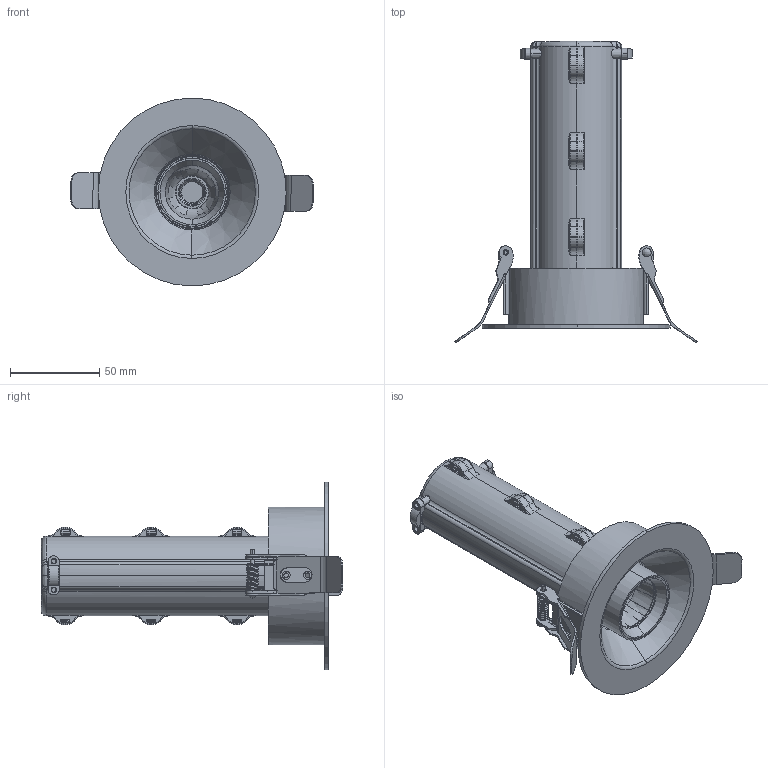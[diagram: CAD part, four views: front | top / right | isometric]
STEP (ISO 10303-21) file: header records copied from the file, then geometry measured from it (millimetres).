
FILE_DESCRIPTION (( 'STEP AP214' ), '1' );
FILE_NAME ('軌道拉伸射灯.STEP', '2026-02-11T00:45:54', ( '' ), ( '' ), 'SwSTEP 2.0', 'SolidWorks 2018', '' );
FILE_SCHEMA (( 'AUTOMOTIVE_DESIGN' ));
Length unit declared in the file: millimetre
Products named in the file (29): ヶ虐; FA+-D35-(36D&50D)-Refer Model.stp; 射燈燈蓋; 1-1276-A_K5_1.stp; 拉伸射燈底蓋; 粟銅標; 縐銅啣2; 拉伸射燈燈頭; ASM0002_ASM_1_ASM.stp; 軌道拉伸射灯; 縐銅啣; B1313-1-D35_92.70.427.00-Model; 射燈燈體; 800586B1; FA+-D35-(36D&50D)-Refer Model; 拉伸射燈外殼組件; 拉伸射燈外殼; 菁屳; 癆; 底蓋外殼; 彈簧; M10牙節; 拉伸射燈固定螺母; 拉伸射燈組合燈燈臂; PRT0001_1.stp; 977607200-K3.stp; 驅動; 電源盒壓線扣; 唅滖虐
Assembly tree (31 placements, depth 5):
  軌道拉伸射灯
    拉伸射燈底蓋
    唅滖虐
    M10牙節
    拉伸射燈燈頭
    拉伸射燈組合燈燈臂
    射燈燈蓋
    射燈燈體
    拉伸射燈外殼組件
      菁屳
      底蓋外殼
      拉伸射燈外殼  x2
    B1313-1-D35_92.70.427.00-Model
    FA+-D35-(36D&50D)-Refer Model
      FA+-D35-(36D&50D)-Refer Model.stp
        ASM0002_ASM_1_ASM.stp
          1-1276-A_K5_1.stp
          PRT0001_1.stp
        977607200-K3.stp
    ヶ虐
    電源盒壓線扣  x2
    800586B1
    驅動
    拉伸射燈固定螺母
    粟銅標  x2
      縐銅啣2
      縐銅啣
      癆
      彈簧
Bounding box: 135.61 x 168.59 x 104.99 mm (x, y, z)
Volume: 178547.5 mm3; surface area: 184266.1 mm2
Topology: 31 solids, 34 shells, 3817 faces, 10520 edges, 6796 vertices
Faces by surface type: plane 1474, cylinder 1140, bspline 628, cone 289, torus 278, sphere 8
Entity records: 126297 total; most frequent: CARTESIAN_POINT 57349, ORIENTED_EDGE 15545, DIRECTION 11989, EDGE_CURVE 7778, VERTEX_POINT 5069, AXIS2_PLACEMENT_3D 4257, VECTOR 3475, LINE 3475
